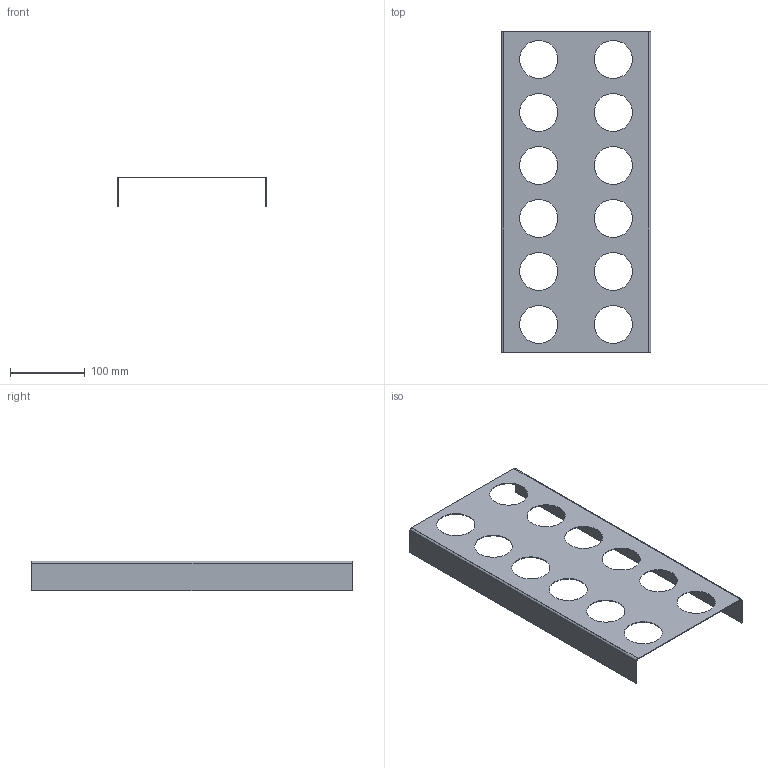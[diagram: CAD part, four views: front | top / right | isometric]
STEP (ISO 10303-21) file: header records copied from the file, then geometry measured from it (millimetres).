
FILE_DESCRIPTION (( 'STEP AP203' ), '1' );
FILE_NAME ('Gewuerzeinsatz_68309-01.STEP', '2010-10-25T13:24:15', ( 'grass' ), ( '' ), 'SwSTEP 2.0', 'SolidWorks 2010', '' );
FILE_SCHEMA (( 'CONFIG_CONTROL_DESIGN' ));
Length unit declared in the file: millimetre
Products named in the file (1): Gewuerzeinsatz_68309-01
Bounding box: 200 x 429 x 40 mm (x, y, z)
Volume: 93827.5 mm3; surface area: 190987.4 mm2
Topology: 1 solids, 1 shells, 38 faces, 108 edges, 72 vertices
Faces by surface type: cylinder 28, plane 10
Entity records: 1393 total; most frequent: DIRECTION 242, CARTESIAN_POINT 219, ORIENTED_EDGE 216, EDGE_CURVE 108, AXIS2_PLACEMENT_3D 95, VERTEX_POINT 72, EDGE_LOOP 62, CIRCLE 56
